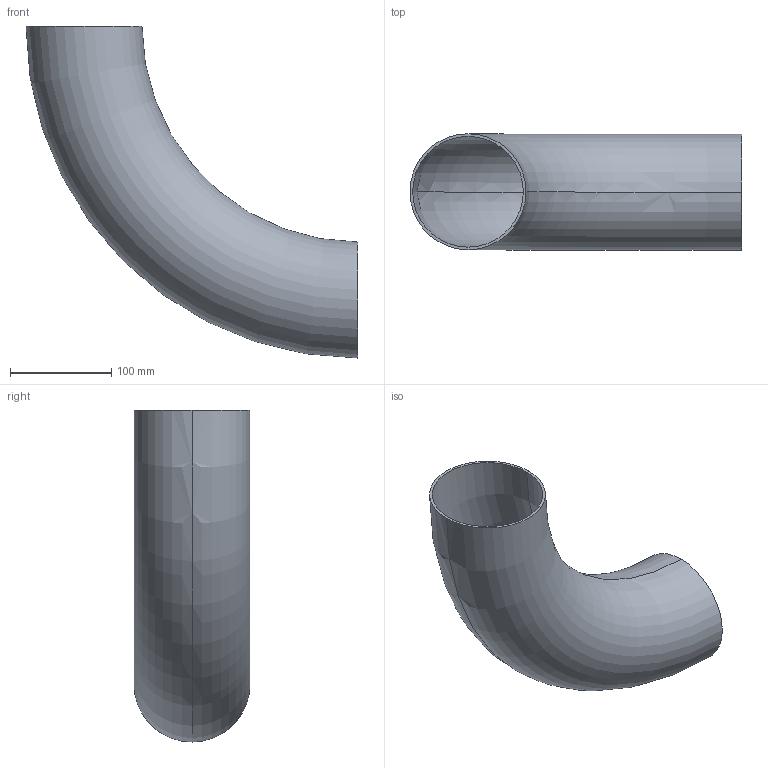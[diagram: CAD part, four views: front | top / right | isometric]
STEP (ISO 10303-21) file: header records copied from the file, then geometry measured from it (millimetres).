
FILE_DESCRIPTION (( 'STEP AP203' ), '1' );
FILE_NAME ('3D_R1655_114.3x2.6_17362310_17362630.STEP', '2024-08-05T09:21:01', ( '' ), ( '' ), 'SwSTEP 2.0', 'SolidWorks 2024', '' );
FILE_SCHEMA (( 'CONFIG_CONTROL_DESIGN' ));
Length unit declared in the file: millimetre
Products named in the file (1): 3D_R1655_114.3x2.6_17362310_17362630
Bounding box: 327.15 x 114.3 x 327.15 mm (x, y, z)
Volume: 386954.6 mm3; surface area: 299482.2 mm2
Topology: 1 solids, 1 shells, 6 faces, 12 edges, 8 vertices
Faces by surface type: torus 4, plane 2
Entity records: 249 total; most frequent: DIRECTION 38, CARTESIAN_POINT 27, ORIENTED_EDGE 24, AXIS2_PLACEMENT_3D 19, EDGE_CURVE 12, CIRCLE 12, PERSON_AND_ORGANIZATION 8, VERTEX_POINT 8
